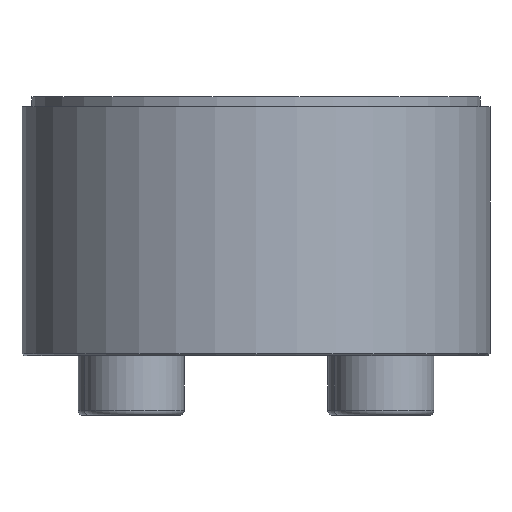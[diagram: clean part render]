
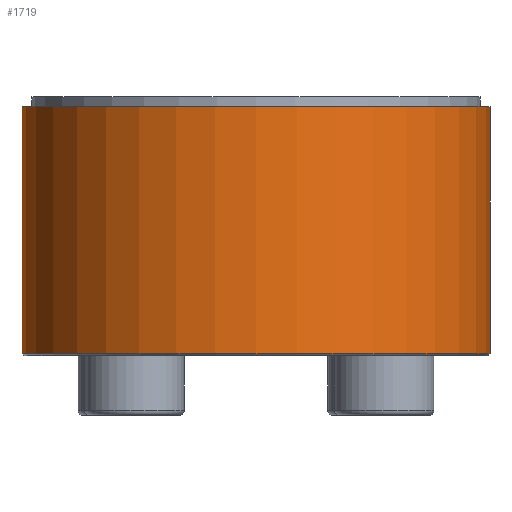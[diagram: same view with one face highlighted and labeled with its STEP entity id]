
A CAD part, front view. The second image highlights one B-rep face of the part: STEP entity #1719.
In plain terms, the highlighted cylindrical face has radius 23.5 mm (diameter 47 mm), a partial arc.
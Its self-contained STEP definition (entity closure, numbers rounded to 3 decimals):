
#101 = AXIS2_PLACEMENT_3D ( 'NONE', #553, #1239, #129 ) ;
#108 = VECTOR ( 'NONE', #675, 1000. ) ;
#129 = DIRECTION ( 'NONE',  ( -1., 0., 0. ) ) ;
#162 = DIRECTION ( 'NONE',  ( 0., 0., -1. ) ) ;
#189 = AXIS2_PLACEMENT_3D ( 'NONE', #478, #751, #919 ) ;
#336 = ORIENTED_EDGE ( 'NONE', *, *, #1603, .T. ) ;
#341 = CIRCLE ( 'NONE', #1435, 23.5 ) ;
#471 = VECTOR ( 'NONE', #162, 1000. ) ;
#477 = ORIENTED_EDGE ( 'NONE', *, *, #1764, .T. ) ;
#478 = CARTESIAN_POINT ( 'NONE',  ( 0., 0., 12. ) ) ;
#523 = VERTEX_POINT ( 'NONE', #1499 ) ;
#533 = CARTESIAN_POINT ( 'NONE',  ( 23.5, 0., 0. ) ) ;
#541 = CIRCLE ( 'NONE', #189, 23.5 ) ;
#553 = CARTESIAN_POINT ( 'NONE',  ( 0., 0., 0. ) ) ;
#579 = CARTESIAN_POINT ( 'NONE',  ( -23.5, 0., -12.8 ) ) ;
#675 = DIRECTION ( 'NONE',  ( 0., 0., -1. ) ) ;
#678 = ORIENTED_EDGE ( 'NONE', *, *, #1453, .T. ) ;
#751 = DIRECTION ( 'NONE',  ( 0., 0., -1. ) ) ;
#804 = VERTEX_POINT ( 'NONE', #579 ) ;
#808 = EDGE_LOOP ( 'NONE', ( #1341, #678, #477, #336 ) ) ;
#840 = LINE ( 'NONE', #987, #471 ) ;
#892 = CYLINDRICAL_SURFACE ( 'NONE', #101, 23.5 ) ;
#919 = DIRECTION ( 'NONE',  ( 1., 0., 0. ) ) ;
#987 = CARTESIAN_POINT ( 'NONE',  ( -23.5, 0., 0. ) ) ;
#1201 = VERTEX_POINT ( 'NONE', #1388 ) ;
#1239 = DIRECTION ( 'NONE',  ( 0., 0., -1. ) ) ;
#1244 = FACE_OUTER_BOUND ( 'NONE', #808, .T. ) ;
#1338 = CARTESIAN_POINT ( 'NONE',  ( 23.5, 0., 12. ) ) ;
#1341 = ORIENTED_EDGE ( 'NONE', *, *, #1741, .F. ) ;
#1388 = CARTESIAN_POINT ( 'NONE',  ( -23.5, 0., 12. ) ) ;
#1435 = AXIS2_PLACEMENT_3D ( 'NONE', #1765, #1482, #1622 ) ;
#1453 = EDGE_CURVE ( 'NONE', #1647, #1201, #541, .T. ) ;
#1482 = DIRECTION ( 'NONE',  ( 0., 0., 1. ) ) ;
#1499 = CARTESIAN_POINT ( 'NONE',  ( 23.5, 0., -12.8 ) ) ;
#1603 = EDGE_CURVE ( 'NONE', #804, #523, #341, .T. ) ;
#1622 = DIRECTION ( 'NONE',  ( -1., 0., 0. ) ) ;
#1647 = VERTEX_POINT ( 'NONE', #1338 ) ;
#1661 = LINE ( 'NONE', #533, #108 ) ;
#1719 = ADVANCED_FACE ( 'NONE', ( #1244 ), #892, .T. ) ;
#1741 = EDGE_CURVE ( 'NONE', #1647, #523, #1661, .T. ) ;
#1764 = EDGE_CURVE ( 'NONE', #1201, #804, #840, .T. ) ;
#1765 = CARTESIAN_POINT ( 'NONE',  ( 0., 0., -12.8 ) ) ;
